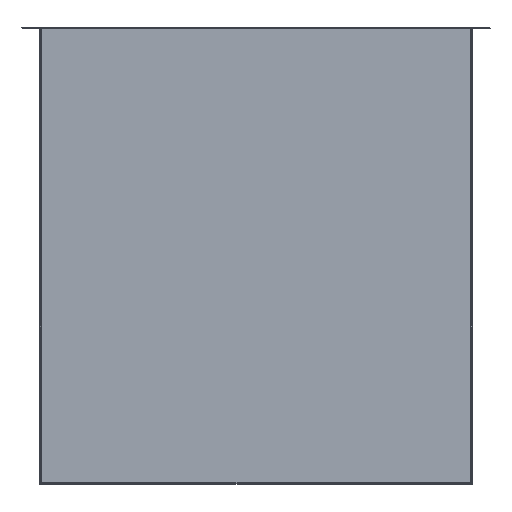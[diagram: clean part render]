
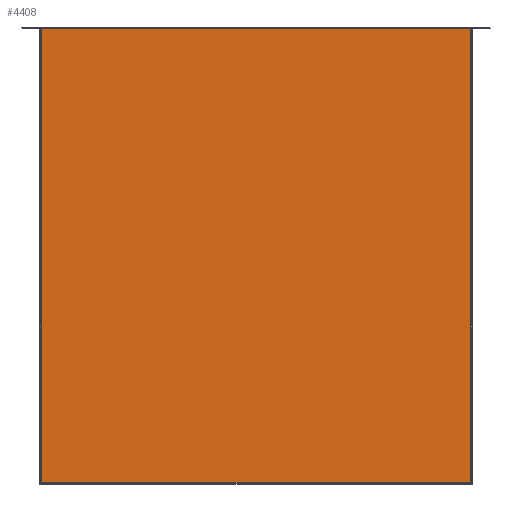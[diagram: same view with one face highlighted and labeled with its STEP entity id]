
A CAD part, front view. The second image highlights one B-rep face of the part: STEP entity #4408.
In plain terms, the highlighted planar face has unit normal (0, -1, -0.009) as drawn and (0, 0, -1) by its records, which use the part's own axes.
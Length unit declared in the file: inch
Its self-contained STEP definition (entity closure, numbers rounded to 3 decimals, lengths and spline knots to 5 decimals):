
#220 = VERTEX_POINT ( 'NONE', #19088 ) ;
#1009 = ORIENTED_EDGE ( 'NONE', *, *, #17654, .F. ) ;
#1374 = VECTOR ( 'NONE', #17622, 39.37008 ) ;
#1402 = CARTESIAN_POINT ( 'NONE',  ( 50.62918, 35.32651, 0. ) ) ;
#1499 = DIRECTION ( 'NONE',  ( -1., 0., 0. ) ) ;
#1550 = LINE ( 'NONE', #10082, #6232 ) ;
#1623 = EDGE_LOOP ( 'NONE', ( #15181, #6429, #3028, #15976, #6635, #3263, #1009, #3352, #7717, #8358, #3484, #15452 ) ) ;
#1744 = DIRECTION ( 'NONE',  ( 0., -1., 0. ) ) ;
#1799 = CARTESIAN_POINT ( 'NONE',  ( 14.92088, -0.28382, 0. ) ) ;
#1810 = LINE ( 'NONE', #18389, #5705 ) ;
#2134 = LINE ( 'NONE', #17642, #1374 ) ;
#2882 = CARTESIAN_POINT ( 'NONE',  ( 14.92088, 35.33526, 0. ) ) ;
#3028 = ORIENTED_EDGE ( 'NONE', *, *, #7053, .F. ) ;
#3116 = VERTEX_POINT ( 'NONE', #19962 ) ;
#3263 = ORIENTED_EDGE ( 'NONE', *, *, #5957, .F. ) ;
#3352 = ORIENTED_EDGE ( 'NONE', *, *, #14101, .F. ) ;
#3484 = ORIENTED_EDGE ( 'NONE', *, *, #19025, .F. ) ;
#3608 = VECTOR ( 'NONE', #11085, 39.37008 ) ;
#3794 = VECTOR ( 'NONE', #9550, 39.37008 ) ;
#4340 = LINE ( 'NONE', #17444, #5090 ) ;
#4408 = ADVANCED_FACE ( 'NONE', ( #13993 ), #17416, .F. ) ;
#4650 = CARTESIAN_POINT ( 'NONE',  ( 14.92088, 1.49036, 0. ) ) ;
#5090 = VECTOR ( 'NONE', #17345, 39.37008 ) ;
#5705 = VECTOR ( 'NONE', #18429, 39.37008 ) ;
#5805 = VERTEX_POINT ( 'NONE', #2882 ) ;
#5957 = EDGE_CURVE ( 'NONE', #220, #8363, #10184, .T. ) ;
#6232 = VECTOR ( 'NONE', #11208, 39.37008 ) ;
#6323 = DIRECTION ( 'NONE',  ( 0., -1., 0. ) ) ;
#6345 = CARTESIAN_POINT ( 'NONE',  ( 14.87703, 1.49421, 0. ) ) ;
#6364 = VECTOR ( 'NONE', #1499, 39.37008 ) ;
#6429 = ORIENTED_EDGE ( 'NONE', *, *, #10354, .F. ) ;
#6635 = ORIENTED_EDGE ( 'NONE', *, *, #11315, .F. ) ;
#6874 = EDGE_CURVE ( 'NONE', #15055, #10350, #1810, .T. ) ;
#6938 = VERTEX_POINT ( 'NONE', #20845 ) ;
#7053 = EDGE_CURVE ( 'NONE', #12367, #5805, #1550, .T. ) ;
#7081 = VERTEX_POINT ( 'NONE', #10868 ) ;
#7244 = LINE ( 'NONE', #7947, #12077 ) ;
#7717 = ORIENTED_EDGE ( 'NONE', *, *, #18275, .F. ) ;
#7947 = CARTESIAN_POINT ( 'NONE',  ( 50.62918, 35.32651, 0. ) ) ;
#7969 = DIRECTION ( 'NONE',  ( 0., 1., 0. ) ) ;
#8358 = ORIENTED_EDGE ( 'NONE', *, *, #11231, .F. ) ;
#8363 = VERTEX_POINT ( 'NONE', #19573 ) ;
#8399 = CARTESIAN_POINT ( 'NONE',  ( 50.62918, 1.49036, 0. ) ) ;
#8492 = DIRECTION ( 'NONE',  ( 1., 0., 0. ) ) ;
#8563 = CARTESIAN_POINT ( 'NONE',  ( 14.92088, 1.49036, 0. ) ) ;
#9171 = EDGE_CURVE ( 'NONE', #7081, #12367, #11047, .T. ) ;
#9225 = VECTOR ( 'NONE', #6323, 39.37008 ) ;
#9508 = CARTESIAN_POINT ( 'NONE',  ( 50.62918, 1.50296, 0. ) ) ;
#9550 = DIRECTION ( 'NONE',  ( -1., 0., 0. ) ) ;
#9872 = DIRECTION ( 'NONE',  ( 1., 0., 0. ) ) ;
#10082 = CARTESIAN_POINT ( 'NONE',  ( 14.92088, 35.33526, 0. ) ) ;
#10184 = LINE ( 'NONE', #1402, #6364 ) ;
#10350 = VERTEX_POINT ( 'NONE', #17619 ) ;
#10354 = EDGE_CURVE ( 'NONE', #5805, #6938, #4340, .T. ) ;
#10509 = LINE ( 'NONE', #8563, #14141 ) ;
#10520 = CARTESIAN_POINT ( 'NONE',  ( 14.92088, 35.33911, 0. ) ) ;
#10721 = LINE ( 'NONE', #9508, #18627 ) ;
#10868 = CARTESIAN_POINT ( 'NONE',  ( 50.62918, 35.33911, 0. ) ) ;
#11047 = LINE ( 'NONE', #10520, #3794 ) ;
#11060 = CARTESIAN_POINT ( 'NONE',  ( 50.62918, 1.50296, 0. ) ) ;
#11085 = DIRECTION ( 'NONE',  ( 0., 1., 0. ) ) ;
#11208 = DIRECTION ( 'NONE',  ( 0., -1., 0. ) ) ;
#11231 = EDGE_CURVE ( 'NONE', #18830, #19417, #10509, .T. ) ;
#11315 = EDGE_CURVE ( 'NONE', #8363, #7081, #7244, .T. ) ;
#12077 = VECTOR ( 'NONE', #7969, 39.37008 ) ;
#12153 = CARTESIAN_POINT ( 'NONE',  ( 50.63303, 1.50296, 0. ) ) ;
#12367 = VERTEX_POINT ( 'NONE', #13928 ) ;
#12662 = LINE ( 'NONE', #1799, #20823 ) ;
#13928 = CARTESIAN_POINT ( 'NONE',  ( 14.92088, 35.33911, 0. ) ) ;
#13993 = FACE_OUTER_BOUND ( 'NONE', #1623, .T. ) ;
#14101 = EDGE_CURVE ( 'NONE', #3116, #15261, #10721, .T. ) ;
#14141 = VECTOR ( 'NONE', #8492, 39.37008 ) ;
#15055 = VERTEX_POINT ( 'NONE', #15737 ) ;
#15181 = ORIENTED_EDGE ( 'NONE', *, *, #20506, .F. ) ;
#15261 = VERTEX_POINT ( 'NONE', #12153 ) ;
#15452 = ORIENTED_EDGE ( 'NONE', *, *, #6874, .F. ) ;
#15737 = CARTESIAN_POINT ( 'NONE',  ( 14.87703, 1.49421, 0. ) ) ;
#15976 = ORIENTED_EDGE ( 'NONE', *, *, #9171, .F. ) ;
#17330 = DIRECTION ( 'NONE',  ( 1., 0., 0. ) ) ;
#17345 = DIRECTION ( 'NONE',  ( -1., 0., 0. ) ) ;
#17353 = DIRECTION ( 'NONE',  ( 0., 0., 1. ) ) ;
#17371 = CARTESIAN_POINT ( 'NONE',  ( 14.92088, 1.49421, 0. ) ) ;
#17416 = PLANE ( 'NONE',  #17846 ) ;
#17444 = CARTESIAN_POINT ( 'NONE',  ( 14.71088, 35.33526, 0. ) ) ;
#17619 = CARTESIAN_POINT ( 'NONE',  ( 14.92088, 1.49421, 0. ) ) ;
#17622 = DIRECTION ( 'NONE',  ( 0., 1., 0. ) ) ;
#17642 = CARTESIAN_POINT ( 'NONE',  ( 50.63303, 1.49421, 0. ) ) ;
#17654 = EDGE_CURVE ( 'NONE', #15261, #220, #2134, .T. ) ;
#17846 = AXIS2_PLACEMENT_3D ( 'NONE', #17371, #17353, #17330 ) ;
#17871 = LINE ( 'NONE', #11060, #3608 ) ;
#18275 = EDGE_CURVE ( 'NONE', #19417, #3116, #17871, .T. ) ;
#18348 = LINE ( 'NONE', #6345, #9225 ) ;
#18389 = CARTESIAN_POINT ( 'NONE',  ( 14.92088, 1.49421, 0. ) ) ;
#18429 = DIRECTION ( 'NONE',  ( 1., 0., 0. ) ) ;
#18627 = VECTOR ( 'NONE', #9872, 39.37008 ) ;
#18830 = VERTEX_POINT ( 'NONE', #4650 ) ;
#19025 = EDGE_CURVE ( 'NONE', #10350, #18830, #12662, .T. ) ;
#19088 = CARTESIAN_POINT ( 'NONE',  ( 50.63303, 35.32651, 0. ) ) ;
#19417 = VERTEX_POINT ( 'NONE', #8399 ) ;
#19573 = CARTESIAN_POINT ( 'NONE',  ( 50.62918, 35.32651, 0. ) ) ;
#19962 = CARTESIAN_POINT ( 'NONE',  ( 50.62918, 1.50296, 0. ) ) ;
#20506 = EDGE_CURVE ( 'NONE', #6938, #15055, #18348, .T. ) ;
#20823 = VECTOR ( 'NONE', #1744, 39.37008 ) ;
#20845 = CARTESIAN_POINT ( 'NONE',  ( 14.87703, 35.33526, 0. ) ) ;
